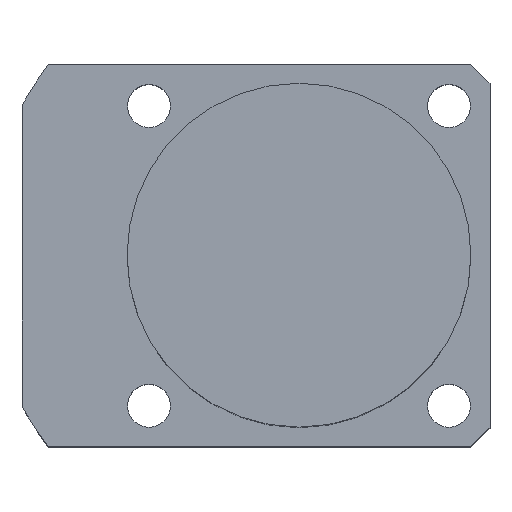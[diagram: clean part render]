
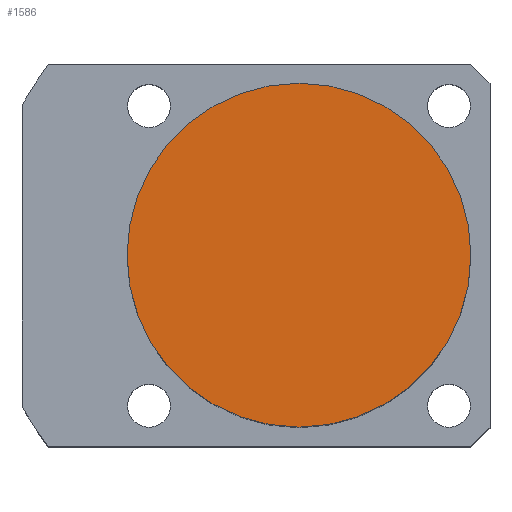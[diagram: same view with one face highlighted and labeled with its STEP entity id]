
A CAD part, top view. The second image highlights one B-rep face of the part: STEP entity #1586.
In plain terms, the highlighted planar face has unit normal (0, 0, 1).
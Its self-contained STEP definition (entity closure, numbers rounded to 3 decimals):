
#3 = CARTESIAN_POINT ( 'NONE',  ( 0., 0., 48.5 ) ) ;
#16 = EDGE_LOOP ( 'NONE', ( #1026, #1233 ) ) ;
#70 = CARTESIAN_POINT ( 'NONE',  ( 0., 0., 48.5 ) ) ;
#136 = CIRCLE ( 'NONE', #527, 18. ) ;
#182 = CARTESIAN_POINT ( 'NONE',  ( 0., 0., 48.5 ) ) ;
#278 = DIRECTION ( 'NONE',  ( 1., 0., 0. ) ) ;
#312 = CARTESIAN_POINT ( 'NONE',  ( 18., 0., 48.5 ) ) ;
#434 = VERTEX_POINT ( 'NONE', #312 ) ;
#492 = DIRECTION ( 'NONE',  ( 1., 0., 0. ) ) ;
#527 = AXIS2_PLACEMENT_3D ( 'NONE', #182, #1384, #586 ) ;
#551 = AXIS2_PLACEMENT_3D ( 'NONE', #70, #1025, #492 ) ;
#586 = DIRECTION ( 'NONE',  ( 1., 0., 0. ) ) ;
#1025 = DIRECTION ( 'NONE',  ( 0., 0., 1. ) ) ;
#1026 = ORIENTED_EDGE ( 'NONE', *, *, #1229, .T. ) ;
#1097 = PLANE ( 'NONE',  #1217 ) ;
#1138 = FACE_OUTER_BOUND ( 'NONE', #16, .T. ) ;
#1195 = CIRCLE ( 'NONE', #551, 18. ) ;
#1217 = AXIS2_PLACEMENT_3D ( 'NONE', #3, #1253, #278 ) ;
#1229 = EDGE_CURVE ( 'NONE', #1531, #434, #136, .T. ) ;
#1233 = ORIENTED_EDGE ( 'NONE', *, *, #1339, .T. ) ;
#1253 = DIRECTION ( 'NONE',  ( 0., 0., 1. ) ) ;
#1339 = EDGE_CURVE ( 'NONE', #434, #1531, #1195, .T. ) ;
#1384 = DIRECTION ( 'NONE',  ( 0., 0., 1. ) ) ;
#1482 = CARTESIAN_POINT ( 'NONE',  ( -18., 0., 48.5 ) ) ;
#1531 = VERTEX_POINT ( 'NONE', #1482 ) ;
#1586 = ADVANCED_FACE ( 'NONE', ( #1138 ), #1097, .T. ) ;
